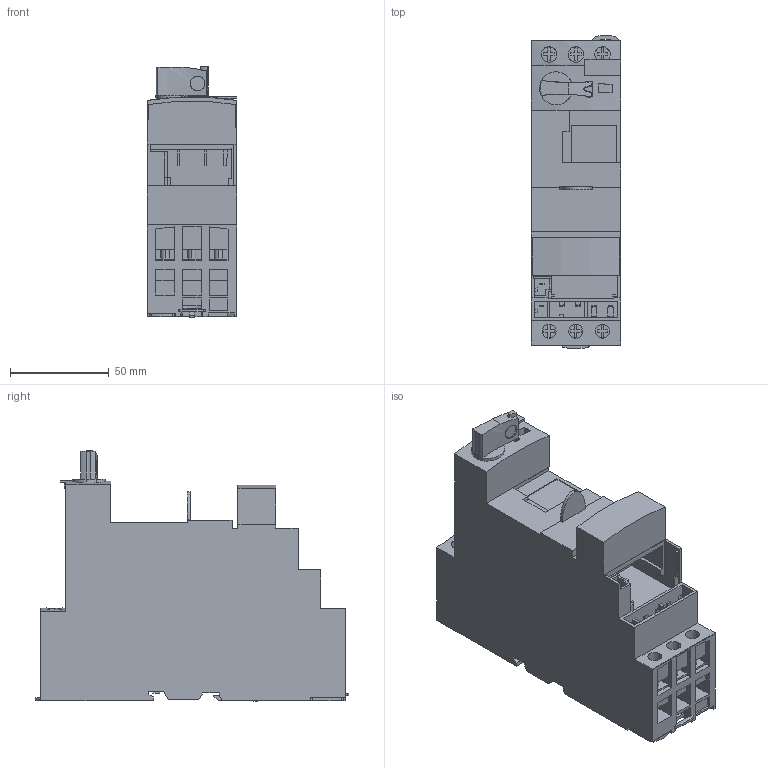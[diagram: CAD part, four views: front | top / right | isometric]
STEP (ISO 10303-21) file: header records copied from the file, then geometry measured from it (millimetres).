
FILE_DESCRIPTION((''),'2;1');
FILE_NAME('1668666048077_ASM','2022-11-17T11:51:09',('SESA540900'),('Schneider-Electric'),'CREO PARAMETRIC BY PTC INC, 2021284','CREO PARAMETRIC BY PTC INC, 2021284','');
FILE_SCHEMA(('AP242_MANAGED_MODEL_BASED_3D_ENGINEERING_MIM_LF { 1 0 10303 442 1 1 4 }'));
Length unit declared in the file: millimetre
Products named in the file (4): EMPTYNODE_1668666048126_ASM; LUB120; LUB120-3D_ASM; 1668666048077_ASM
Assembly tree (3 placements, depth 3):
  1668666048077_ASM
    EMPTYNODE_1668666048126_ASM
    LUB120-3D_ASM
      LUB120
Bounding box: 45 x 158.48 x 126.85 mm (x, y, z)
Volume: 536302 mm3; surface area: 75774.5 mm2
Topology: 4 solids, 15 shells, 831 faces, 2228 edges, 1480 vertices
Faces by surface type: plane 747, cylinder 68, extrusion 16
Entity records: 35978 total; most frequent: CARTESIAN_POINT 5075, ORIENTED_EDGE 4456, DIRECTION 3979, PRESENTATION_STYLE_ASSIGNMENT 2503, STYLED_ITEM 2235, CURVE_STYLE 2231, EDGE_CURVE 2228, VECTOR 2059
